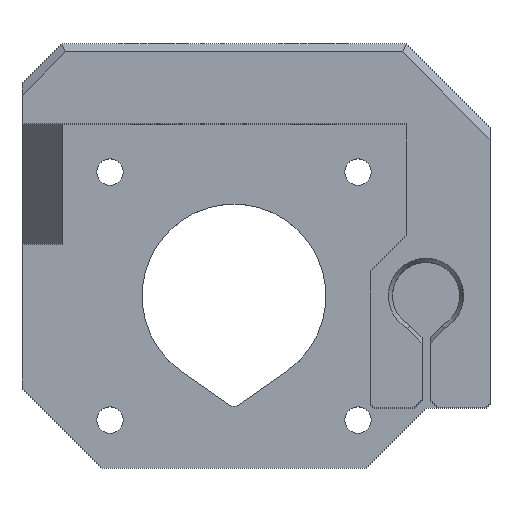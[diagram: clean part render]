
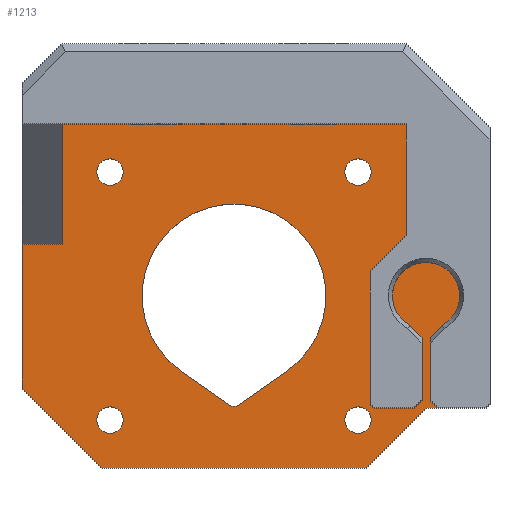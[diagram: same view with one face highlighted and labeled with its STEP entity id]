
A CAD part, top view. The second image highlights one B-rep face of the part: STEP entity #1213.
In plain terms, the highlighted planar face has unit normal (0, 0, 1).
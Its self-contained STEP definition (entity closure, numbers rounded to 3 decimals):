
#641=CARTESIAN_POINT('Vertex',(-26.5,-33.,0.)) ;
#644=CARTESIAN_POINT('Line Origine',(-26.5,-24.,0.)) ;
#648=CARTESIAN_POINT('Vertex',(-26.5,-15.,0.)) ;
#745=CARTESIAN_POINT('Vertex',(21.5,0.,0.)) ;
#752=CARTESIAN_POINT('Vertex',(-21.5,0.,0.)) ;
#755=CARTESIAN_POINT('Line Origine',(0.,0.,0.)) ;
#875=CARTESIAN_POINT('Vertex',(24.5,-34.5,0.)) ;
#878=CARTESIAN_POINT('Line Origine',(25.,-35.,0.)) ;
#882=CARTESIAN_POINT('Vertex',(25.5,-35.5,0.)) ;
#999=CARTESIAN_POINT('Axis2P3D Location',(0.,-43.,0.)) ;
#1004=CARTESIAN_POINT('Line Origine',(20.25,-39.25,0.)) ;
#1008=CARTESIAN_POINT('Vertex',(24.,-35.5,0.)) ;
#1010=CARTESIAN_POINT('Vertex',(16.5,-43.,0.)) ;
#1013=CARTESIAN_POINT('Line Origine',(24.75,-35.5,0.)) ;
#1018=CARTESIAN_POINT('Line Origine',(24.5,-30.6,0.)) ;
#1022=CARTESIAN_POINT('Vertex',(24.5,-26.7,0.)) ;
#1025=CARTESIAN_POINT('Line Origine',(25.257,-25.943,0.)) ;
#1029=CARTESIAN_POINT('Vertex',(26.015,-25.185,0.)) ;
#1032=CARTESIAN_POINT('Axis2P3D Location',(24.,-21.5,0.)) ;
#1036=CARTESIAN_POINT('Vertex',(19.921,-22.5,0.)) ;
#1039=CARTESIAN_POINT('Line Origine',(18.46,-22.5,0.)) ;
#1043=CARTESIAN_POINT('Vertex',(17.,-22.5,0.)) ;
#1046=CARTESIAN_POINT('Line Origine',(17.,-20.5,0.)) ;
#1050=CARTESIAN_POINT('Vertex',(17.,-18.5,0.)) ;
#1053=CARTESIAN_POINT('Line Origine',(19.25,-16.25,0.)) ;
#1057=CARTESIAN_POINT('Vertex',(21.5,-14.,0.)) ;
#1060=CARTESIAN_POINT('Line Origine',(21.5,-7.,0.)) ;
#1065=CARTESIAN_POINT('Line Origine',(-21.5,-7.5,0.)) ;
#1069=CARTESIAN_POINT('Vertex',(-21.5,-15.,0.)) ;
#1072=CARTESIAN_POINT('Line Origine',(-24.,-15.,0.)) ;
#1077=CARTESIAN_POINT('Line Origine',(-21.5,-38.,0.)) ;
#1081=CARTESIAN_POINT('Vertex',(-16.5,-43.,0.)) ;
#1084=CARTESIAN_POINT('Line Origine',(0.,-43.,0.)) ;
#1107=CARTESIAN_POINT('Axis2P3D Location',(-15.5,-6.,0.)) ;
#1111=CARTESIAN_POINT('Vertex',(-13.85,-6.,0.)) ;
#1113=CARTESIAN_POINT('Vertex',(-17.15,-6.,0.)) ;
#1116=CARTESIAN_POINT('Axis2P3D Location',(-15.5,-6.,0.)) ;
#1125=CARTESIAN_POINT('Axis2P3D Location',(0.,-21.5,0.)) ;
#1129=CARTESIAN_POINT('Vertex',(-6.596,-30.92,0.)) ;
#1131=CARTESIAN_POINT('Vertex',(6.596,-30.92,0.)) ;
#1134=CARTESIAN_POINT('Line Origine',(3.585,-33.029,0.)) ;
#1138=CARTESIAN_POINT('Vertex',(0.574,-35.137,0.)) ;
#1141=CARTESIAN_POINT('Axis2P3D Location',(0.,-34.318,0.)) ;
#1145=CARTESIAN_POINT('Vertex',(-0.574,-35.137,0.)) ;
#1148=CARTESIAN_POINT('Line Origine',(-3.585,-33.029,0.)) ;
#1159=CARTESIAN_POINT('Axis2P3D Location',(15.5,-6.,0.)) ;
#1163=CARTESIAN_POINT('Vertex',(13.85,-6.,0.)) ;
#1165=CARTESIAN_POINT('Vertex',(17.15,-6.,0.)) ;
#1168=CARTESIAN_POINT('Axis2P3D Location',(15.5,-6.,0.)) ;
#1177=CARTESIAN_POINT('Axis2P3D Location',(15.5,-37.,0.)) ;
#1181=CARTESIAN_POINT('Vertex',(17.15,-37.,0.)) ;
#1183=CARTESIAN_POINT('Vertex',(13.85,-37.,0.)) ;
#1186=CARTESIAN_POINT('Axis2P3D Location',(15.5,-37.,0.)) ;
#1195=CARTESIAN_POINT('Axis2P3D Location',(-15.5,-37.,0.)) ;
#1199=CARTESIAN_POINT('Vertex',(-17.15,-37.,0.)) ;
#1201=CARTESIAN_POINT('Vertex',(-13.85,-37.,0.)) ;
#1204=CARTESIAN_POINT('Axis2P3D Location',(-15.5,-37.,0.)) ;
#645=DIRECTION('Vector Direction',(0.,1.,0.)) ;
#756=DIRECTION('Vector Direction',(1.,0.,0.)) ;
#879=DIRECTION('Vector Direction',(0.707,-0.707,0.)) ;
#1000=DIRECTION('Axis2P3D Direction',(0.,0.,-1.)) ;
#1001=DIRECTION('Axis2P3D XDirection',(0.,1.,0.)) ;
#1005=DIRECTION('Vector Direction',(0.707,0.707,0.)) ;
#1014=DIRECTION('Vector Direction',(-1.,0.,0.)) ;
#1019=DIRECTION('Vector Direction',(0.,-1.,0.)) ;
#1026=DIRECTION('Vector Direction',(0.707,0.707,0.)) ;
#1033=DIRECTION('Axis2P3D Direction',(0.,0.,-1.)) ;
#1040=DIRECTION('Vector Direction',(1.,0.,0.)) ;
#1047=DIRECTION('Vector Direction',(0.,-1.,0.)) ;
#1054=DIRECTION('Vector Direction',(-0.707,-0.707,0.)) ;
#1061=DIRECTION('Vector Direction',(0.,1.,0.)) ;
#1066=DIRECTION('Vector Direction',(0.,1.,0.)) ;
#1073=DIRECTION('Vector Direction',(-1.,0.,0.)) ;
#1078=DIRECTION('Vector Direction',(-0.707,0.707,0.)) ;
#1085=DIRECTION('Vector Direction',(1.,0.,0.)) ;
#1108=DIRECTION('Axis2P3D Direction',(0.,0.,-1.)) ;
#1117=DIRECTION('Axis2P3D Direction',(0.,0.,-1.)) ;
#1126=DIRECTION('Axis2P3D Direction',(0.,0.,-1.)) ;
#1135=DIRECTION('Vector Direction',(-0.819,-0.574,0.)) ;
#1142=DIRECTION('Axis2P3D Direction',(0.,0.,-1.)) ;
#1149=DIRECTION('Vector Direction',(0.819,-0.574,0.)) ;
#1160=DIRECTION('Axis2P3D Direction',(0.,0.,-1.)) ;
#1169=DIRECTION('Axis2P3D Direction',(0.,0.,-1.)) ;
#1178=DIRECTION('Axis2P3D Direction',(0.,0.,-1.)) ;
#1187=DIRECTION('Axis2P3D Direction',(0.,0.,-1.)) ;
#1196=DIRECTION('Axis2P3D Direction',(0.,0.,-1.)) ;
#1205=DIRECTION('Axis2P3D Direction',(0.,0.,-1.)) ;
#1002=AXIS2_PLACEMENT_3D('Plane Axis2P3D',#999,#1000,#1001) ;
#1034=AXIS2_PLACEMENT_3D('Circle Axis2P3D',#1032,#1033,$) ;
#1109=AXIS2_PLACEMENT_3D('Circle Axis2P3D',#1107,#1108,$) ;
#1118=AXIS2_PLACEMENT_3D('Circle Axis2P3D',#1116,#1117,$) ;
#1127=AXIS2_PLACEMENT_3D('Circle Axis2P3D',#1125,#1126,$) ;
#1143=AXIS2_PLACEMENT_3D('Circle Axis2P3D',#1141,#1142,$) ;
#1161=AXIS2_PLACEMENT_3D('Circle Axis2P3D',#1159,#1160,$) ;
#1170=AXIS2_PLACEMENT_3D('Circle Axis2P3D',#1168,#1169,$) ;
#1179=AXIS2_PLACEMENT_3D('Circle Axis2P3D',#1177,#1178,$) ;
#1188=AXIS2_PLACEMENT_3D('Circle Axis2P3D',#1186,#1187,$) ;
#1197=AXIS2_PLACEMENT_3D('Circle Axis2P3D',#1195,#1196,$) ;
#1206=AXIS2_PLACEMENT_3D('Circle Axis2P3D',#1204,#1205,$) ;
#1090=ORIENTED_EDGE('',*,*,#1012,.F.) ;
#1091=ORIENTED_EDGE('',*,*,#1017,.F.) ;
#1092=ORIENTED_EDGE('',*,*,#884,.T.) ;
#1093=ORIENTED_EDGE('',*,*,#1024,.T.) ;
#1094=ORIENTED_EDGE('',*,*,#1031,.T.) ;
#1095=ORIENTED_EDGE('',*,*,#1038,.T.) ;
#1096=ORIENTED_EDGE('',*,*,#1045,.T.) ;
#1097=ORIENTED_EDGE('',*,*,#1052,.T.) ;
#1098=ORIENTED_EDGE('',*,*,#1059,.T.) ;
#1099=ORIENTED_EDGE('',*,*,#1064,.T.) ;
#1100=ORIENTED_EDGE('',*,*,#759,.F.) ;
#1101=ORIENTED_EDGE('',*,*,#1071,.F.) ;
#1102=ORIENTED_EDGE('',*,*,#1076,.T.) ;
#1103=ORIENTED_EDGE('',*,*,#650,.F.) ;
#1104=ORIENTED_EDGE('',*,*,#1083,.F.) ;
#1105=ORIENTED_EDGE('',*,*,#1088,.T.) ;
#1122=ORIENTED_EDGE('',*,*,#1115,.T.) ;
#1123=ORIENTED_EDGE('',*,*,#1120,.T.) ;
#1154=ORIENTED_EDGE('',*,*,#1133,.T.) ;
#1155=ORIENTED_EDGE('',*,*,#1140,.T.) ;
#1156=ORIENTED_EDGE('',*,*,#1147,.T.) ;
#1157=ORIENTED_EDGE('',*,*,#1152,.T.) ;
#1174=ORIENTED_EDGE('',*,*,#1167,.T.) ;
#1175=ORIENTED_EDGE('',*,*,#1172,.T.) ;
#1192=ORIENTED_EDGE('',*,*,#1185,.T.) ;
#1193=ORIENTED_EDGE('',*,*,#1190,.T.) ;
#1210=ORIENTED_EDGE('',*,*,#1203,.T.) ;
#1211=ORIENTED_EDGE('',*,*,#1208,.T.) ;
#1124=FACE_BOUND('',#1121,.T.) ;
#1158=FACE_BOUND('',#1153,.T.) ;
#1176=FACE_BOUND('',#1173,.T.) ;
#1194=FACE_BOUND('',#1191,.T.) ;
#1212=FACE_BOUND('',#1209,.T.) ;
#646=VECTOR('Line Direction',#645,1.) ;
#757=VECTOR('Line Direction',#756,1.) ;
#880=VECTOR('Line Direction',#879,1.) ;
#1006=VECTOR('Line Direction',#1005,1.) ;
#1015=VECTOR('Line Direction',#1014,1.) ;
#1020=VECTOR('Line Direction',#1019,1.) ;
#1027=VECTOR('Line Direction',#1026,1.) ;
#1041=VECTOR('Line Direction',#1040,1.) ;
#1048=VECTOR('Line Direction',#1047,1.) ;
#1055=VECTOR('Line Direction',#1054,1.) ;
#1062=VECTOR('Line Direction',#1061,1.) ;
#1067=VECTOR('Line Direction',#1066,1.) ;
#1074=VECTOR('Line Direction',#1073,1.) ;
#1079=VECTOR('Line Direction',#1078,1.) ;
#1086=VECTOR('Line Direction',#1085,1.) ;
#1136=VECTOR('Line Direction',#1135,1.) ;
#1150=VECTOR('Line Direction',#1149,1.) ;
#1213=ADVANCED_FACE('PartBody',(#1106,#1124,#1158,#1176,#1194,#1212),#1003,.F.) ;
#1035=CIRCLE('generated circle',#1034,4.2) ;
#1110=CIRCLE('generated circle',#1109,1.65) ;
#1119=CIRCLE('generated circle',#1118,1.65) ;
#1128=CIRCLE('generated circle',#1127,11.5) ;
#1144=CIRCLE('generated circle',#1143,1.) ;
#1162=CIRCLE('generated circle',#1161,1.65) ;
#1171=CIRCLE('generated circle',#1170,1.65) ;
#1180=CIRCLE('generated circle',#1179,1.65) ;
#1189=CIRCLE('generated circle',#1188,1.65) ;
#1198=CIRCLE('generated circle',#1197,1.65) ;
#1207=CIRCLE('generated circle',#1206,1.65) ;
#650=EDGE_CURVE('',#642,#649,#647,.T.) ;
#759=EDGE_CURVE('',#753,#746,#758,.T.) ;
#884=EDGE_CURVE('',#883,#876,#881,.F.) ;
#1012=EDGE_CURVE('',#1009,#1011,#1007,.F.) ;
#1017=EDGE_CURVE('',#883,#1009,#1016,.T.) ;
#1024=EDGE_CURVE('',#876,#1023,#1021,.F.) ;
#1031=EDGE_CURVE('',#1023,#1030,#1028,.T.) ;
#1038=EDGE_CURVE('',#1030,#1037,#1035,.F.) ;
#1045=EDGE_CURVE('',#1037,#1044,#1042,.F.) ;
#1052=EDGE_CURVE('',#1044,#1051,#1049,.F.) ;
#1059=EDGE_CURVE('',#1051,#1058,#1056,.F.) ;
#1064=EDGE_CURVE('',#1058,#746,#1063,.T.) ;
#1071=EDGE_CURVE('',#1070,#753,#1068,.T.) ;
#1076=EDGE_CURVE('',#1070,#649,#1075,.T.) ;
#1083=EDGE_CURVE('',#1082,#642,#1080,.T.) ;
#1088=EDGE_CURVE('',#1082,#1011,#1087,.T.) ;
#1115=EDGE_CURVE('',#1112,#1114,#1110,.T.) ;
#1120=EDGE_CURVE('',#1114,#1112,#1119,.T.) ;
#1133=EDGE_CURVE('',#1130,#1132,#1128,.T.) ;
#1140=EDGE_CURVE('',#1132,#1139,#1137,.T.) ;
#1147=EDGE_CURVE('',#1139,#1146,#1144,.T.) ;
#1152=EDGE_CURVE('',#1146,#1130,#1151,.F.) ;
#1167=EDGE_CURVE('',#1164,#1166,#1162,.T.) ;
#1172=EDGE_CURVE('',#1166,#1164,#1171,.T.) ;
#1185=EDGE_CURVE('',#1182,#1184,#1180,.T.) ;
#1190=EDGE_CURVE('',#1184,#1182,#1189,.T.) ;
#1203=EDGE_CURVE('',#1200,#1202,#1198,.T.) ;
#1208=EDGE_CURVE('',#1202,#1200,#1207,.T.) ;
#1089=EDGE_LOOP('',(#1090,#1091,#1092,#1093,#1094,#1095,#1096,#1097,#1098,#1099,#1100,#1101,#1102,#1103,#1104,#1105)) ;
#1121=EDGE_LOOP('',(#1122,#1123)) ;
#1153=EDGE_LOOP('',(#1154,#1155,#1156,#1157)) ;
#1173=EDGE_LOOP('',(#1174,#1175)) ;
#1191=EDGE_LOOP('',(#1192,#1193)) ;
#1209=EDGE_LOOP('',(#1210,#1211)) ;
#1106=FACE_OUTER_BOUND('',#1089,.T.) ;
#647=LINE('Line',#644,#646) ;
#758=LINE('Line',#755,#757) ;
#881=LINE('Line',#878,#880) ;
#1007=LINE('Line',#1004,#1006) ;
#1016=LINE('Line',#1013,#1015) ;
#1021=LINE('Line',#1018,#1020) ;
#1028=LINE('Line',#1025,#1027) ;
#1042=LINE('Line',#1039,#1041) ;
#1049=LINE('Line',#1046,#1048) ;
#1056=LINE('Line',#1053,#1055) ;
#1063=LINE('Line',#1060,#1062) ;
#1068=LINE('Line',#1065,#1067) ;
#1075=LINE('Line',#1072,#1074) ;
#1080=LINE('Line',#1077,#1079) ;
#1087=LINE('Line',#1084,#1086) ;
#1137=LINE('Line',#1134,#1136) ;
#1151=LINE('Line',#1148,#1150) ;
#1003=PLANE('Plane',#1002) ;
#642=VERTEX_POINT('',#641) ;
#649=VERTEX_POINT('',#648) ;
#746=VERTEX_POINT('',#745) ;
#753=VERTEX_POINT('',#752) ;
#876=VERTEX_POINT('',#875) ;
#883=VERTEX_POINT('',#882) ;
#1009=VERTEX_POINT('',#1008) ;
#1011=VERTEX_POINT('',#1010) ;
#1023=VERTEX_POINT('',#1022) ;
#1030=VERTEX_POINT('',#1029) ;
#1037=VERTEX_POINT('',#1036) ;
#1044=VERTEX_POINT('',#1043) ;
#1051=VERTEX_POINT('',#1050) ;
#1058=VERTEX_POINT('',#1057) ;
#1070=VERTEX_POINT('',#1069) ;
#1082=VERTEX_POINT('',#1081) ;
#1112=VERTEX_POINT('',#1111) ;
#1114=VERTEX_POINT('',#1113) ;
#1130=VERTEX_POINT('',#1129) ;
#1132=VERTEX_POINT('',#1131) ;
#1139=VERTEX_POINT('',#1138) ;
#1146=VERTEX_POINT('',#1145) ;
#1164=VERTEX_POINT('',#1163) ;
#1166=VERTEX_POINT('',#1165) ;
#1182=VERTEX_POINT('',#1181) ;
#1184=VERTEX_POINT('',#1183) ;
#1200=VERTEX_POINT('',#1199) ;
#1202=VERTEX_POINT('',#1201) ;
